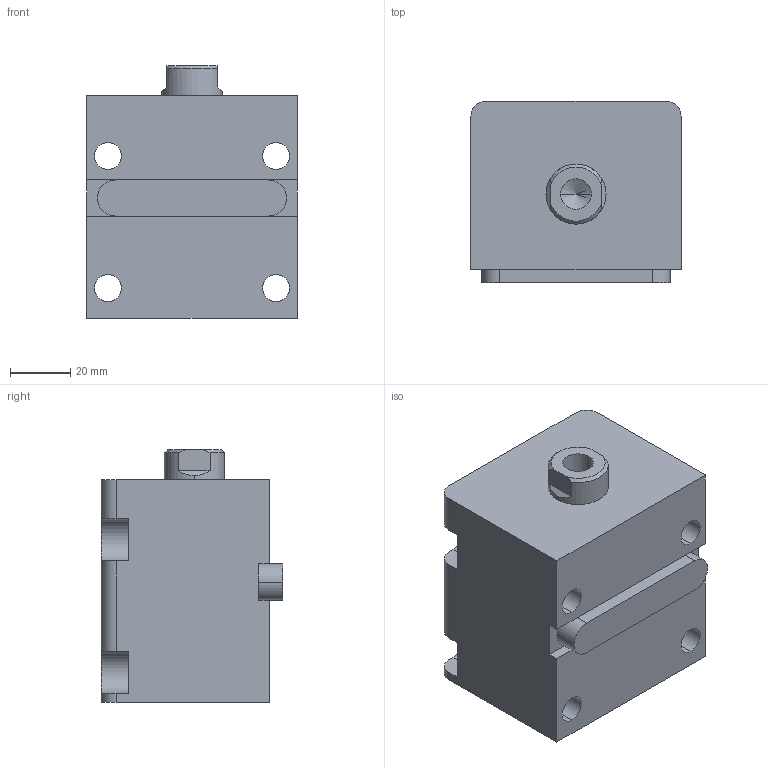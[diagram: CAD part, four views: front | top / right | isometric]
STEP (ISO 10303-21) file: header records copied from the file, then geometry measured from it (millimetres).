
FILE_DESCRIPTION (( 'STEP AP203' ), '1' );
FILE_NAME ('HTB-LA32-20N.STEP', '2019-10-09T06:25:47', ( '微软用户' ), ( '微软中国' ), 'SwSTEP 2.0', 'SolidWorks 2012', '' );
FILE_SCHEMA (( 'CONFIG_CONTROL_DESIGN' ));
Length unit declared in the file: millimetre
Products named in the file (4): HTB-LA32-20掛极; HTB-LA32-20N活塞杆; HTB-LA32-瑩; HTB-LA32-20N
Assembly tree (3 placements, depth 2):
  HTB-LA32-20N
    HTB-LA32-20掛极
    HTB-LA32-20N活塞杆
    HTB-LA32-瑩
Bounding box: 70 x 60.5 x 84 mm (x, y, z)
Volume: 264031.3 mm3; surface area: 49221 mm2
Topology: 3 solids, 3 shells, 88 faces, 217 edges, 141 vertices
Faces by surface type: plane 39, cylinder 35, cone 8, torus 6
Entity records: 3053 total; most frequent: DIRECTION 487, CARTESIAN_POINT 478, ORIENTED_EDGE 430, EDGE_CURVE 215, AXIS2_PLACEMENT_3D 186, VERTEX_POINT 141, LINE 115, VECTOR 115
